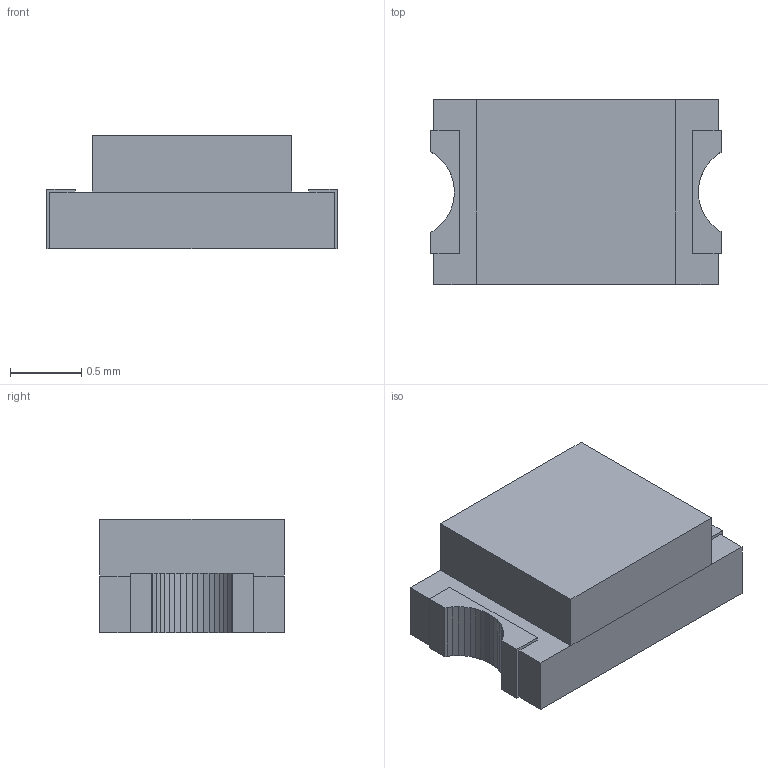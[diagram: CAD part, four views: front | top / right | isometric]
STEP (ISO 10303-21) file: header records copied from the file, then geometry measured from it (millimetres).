
FILE_DESCRIPTION(('FreeCAD Model'),'2;1');
FILE_NAME('Open CASCADE Shape Model','2021-06-28T19:33:08',('Author'),( ''),'Open CASCADE STEP processor 7.5','FreeCAD','Unknown');
FILE_SCHEMA(('AUTOMOTIVE_DESIGN { 1 0 10303 214 1 1 1 1 }'));
Length unit declared in the file: millimetre
Products named in the file (1): Group
Bounding box: 2.04 x 1.3 x 0.8 mm (x, y, z)
Volume: 1.7 mm3; surface area: 10 mm2
Topology: 1 solids, 1 shells, 66 faces, 218 edges, 154 vertices
Faces by surface type: plane 66
Entity records: 5487 total; most frequent: CARTESIAN_POINT 1079, DIRECTION 584, LINE 450, VECTOR 450, ORIENTED_EDGE 436, PCURVE 436, DEFINITIONAL_REPRESENTATION 436, EDGE_CURVE 218
